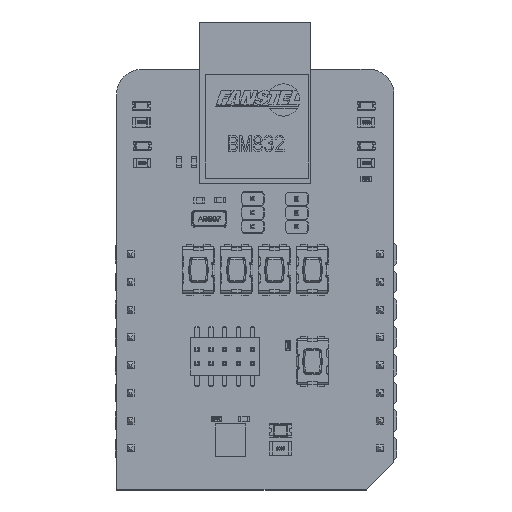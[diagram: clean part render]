
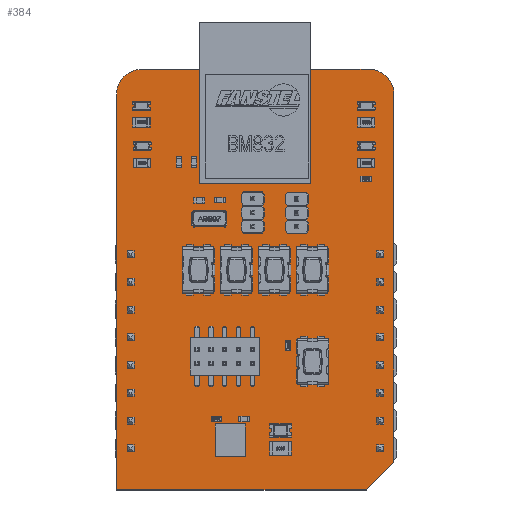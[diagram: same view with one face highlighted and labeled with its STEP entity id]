
A CAD part, top view. The second image highlights one B-rep face of the part: STEP entity #384.
In plain terms, the highlighted planar face has unit normal (0, 0, 1).
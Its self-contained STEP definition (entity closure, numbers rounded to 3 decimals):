
#155 = VERTEX_POINT('',#156);
#156 = CARTESIAN_POINT('',(-1.27,-3.81,0.));
#162 = EDGE_CURVE('',#155,#163,#165,.T.);
#163 = VERTEX_POINT('',#164);
#164 = CARTESIAN_POINT('',(-1.27,32.436,0.));
#165 = LINE('',#166,#167);
#166 = CARTESIAN_POINT('',(-1.27,-3.81,0.));
#167 = VECTOR('',#168,1.);
#168 = DIRECTION('',(0.,1.,0.));
#193 = EDGE_CURVE('',#163,#194,#196,.T.);
#194 = VERTEX_POINT('',#195);
#195 = CARTESIAN_POINT('',(1.016,34.716,0.));
#196 = CIRCLE('',#197,2.277);
#197 = AXIS2_PLACEMENT_3D('',#198,#199,#200);
#198 = CARTESIAN_POINT('',(1.007,32.439,0.));
#199 = DIRECTION('',(0.,0.,-1.));
#200 = DIRECTION('',(-1.,-0.001,0.));
#226 = EDGE_CURVE('',#194,#227,#229,.T.);
#227 = VERTEX_POINT('',#228);
#228 = CARTESIAN_POINT('',(21.844,34.716,0.));
#229 = LINE('',#230,#231);
#230 = CARTESIAN_POINT('',(1.016,34.716,0.));
#231 = VECTOR('',#232,1.);
#232 = DIRECTION('',(1.,0.,0.));
#257 = EDGE_CURVE('',#227,#258,#260,.T.);
#258 = VERTEX_POINT('',#259);
#259 = CARTESIAN_POINT('',(24.13,32.43,0.));
#260 = CIRCLE('',#261,2.288);
#261 = AXIS2_PLACEMENT_3D('',#262,#263,#264);
#262 = CARTESIAN_POINT('',(21.842,32.428,0.));
#263 = DIRECTION('',(0.,0.,-1.));
#264 = DIRECTION('',(0.001,1.,0.));
#290 = EDGE_CURVE('',#258,#291,#293,.T.);
#291 = VERTEX_POINT('',#292);
#292 = CARTESIAN_POINT('',(24.13,-1.27,0.));
#293 = LINE('',#294,#295);
#294 = CARTESIAN_POINT('',(24.13,32.43,0.));
#295 = VECTOR('',#296,1.);
#296 = DIRECTION('',(0.,-1.,0.));
#321 = EDGE_CURVE('',#291,#322,#324,.T.);
#322 = VERTEX_POINT('',#323);
#323 = CARTESIAN_POINT('',(21.59,-3.81,0.));
#324 = LINE('',#325,#326);
#325 = CARTESIAN_POINT('',(24.13,-1.27,0.));
#326 = VECTOR('',#327,1.);
#327 = DIRECTION('',(-0.707,-0.707,0.));
#352 = EDGE_CURVE('',#322,#155,#353,.T.);
#353 = LINE('',#354,#355);
#354 = CARTESIAN_POINT('',(21.59,-3.81,0.));
#355 = VECTOR('',#356,1.);
#356 = DIRECTION('',(-1.,0.,0.));
#384 = ADVANCED_FACE('',(#385),#394,.T.);
#385 = FACE_BOUND('',#386,.F.);
#386 = EDGE_LOOP('',(#387,#388,#389,#390,#391,#392,#393));
#387 = ORIENTED_EDGE('',*,*,#162,.T.);
#388 = ORIENTED_EDGE('',*,*,#193,.T.);
#389 = ORIENTED_EDGE('',*,*,#226,.T.);
#390 = ORIENTED_EDGE('',*,*,#257,.T.);
#391 = ORIENTED_EDGE('',*,*,#290,.T.);
#392 = ORIENTED_EDGE('',*,*,#321,.T.);
#393 = ORIENTED_EDGE('',*,*,#352,.T.);
#394 = PLANE('',#395);
#395 = AXIS2_PLACEMENT_3D('',#396,#397,#398);
#396 = CARTESIAN_POINT('',(-1.27,-3.81,0.));
#397 = DIRECTION('',(0.,0.,1.));
#398 = DIRECTION('',(1.,0.,0.));
